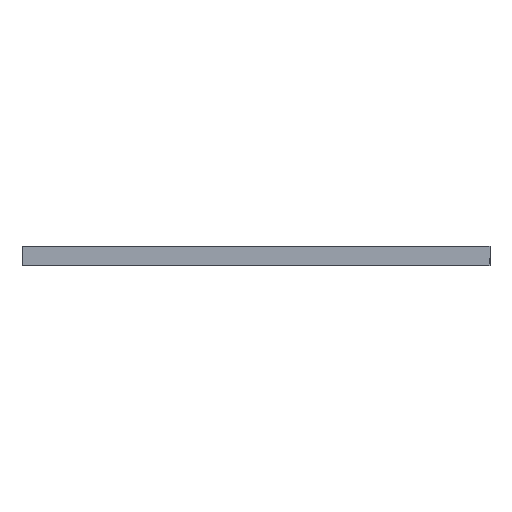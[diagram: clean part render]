
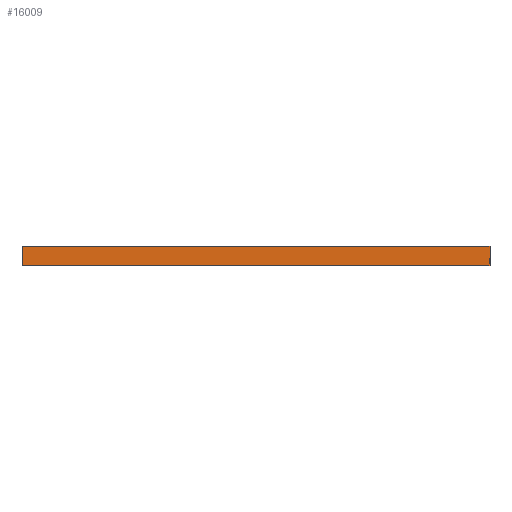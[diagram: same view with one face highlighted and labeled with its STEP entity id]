
A CAD part, front view. The second image highlights one B-rep face of the part: STEP entity #16009.
In plain terms, the highlighted planar face has unit normal (0, -1, 0).
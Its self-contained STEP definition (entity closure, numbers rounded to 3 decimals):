
#333 = VERTEX_POINT ( 'NONE', #25117 ) ;
#2737 = CARTESIAN_POINT ( 'NONE',  ( -12., 0., 0. ) ) ;
#3102 = VERTEX_POINT ( 'NONE', #32880 ) ;
#3257 = VECTOR ( 'NONE', #15110, 1000. ) ;
#3974 = VERTEX_POINT ( 'NONE', #2737 ) ;
#3991 = EDGE_CURVE ( 'NONE', #3974, #3102, #14623, .T. ) ;
#6361 = CARTESIAN_POINT ( 'NONE',  ( 0., 0., 0.5 ) ) ;
#6940 = DIRECTION ( 'NONE',  ( 0., 0., -1. ) ) ;
#9304 = DIRECTION ( 'NONE',  ( 1., 0., 0. ) ) ;
#9725 = VECTOR ( 'NONE', #9304, 1000. ) ;
#10083 = VECTOR ( 'NONE', #6940, 1000. ) ;
#10126 = VERTEX_POINT ( 'NONE', #15895 ) ;
#10584 = DIRECTION ( 'NONE',  ( -1., 0., 0. ) ) ;
#10820 = EDGE_CURVE ( 'NONE', #10126, #3102, #25149, .T. ) ;
#11920 = CARTESIAN_POINT ( 'NONE',  ( -12., 0., 0.5 ) ) ;
#11961 = CARTESIAN_POINT ( 'NONE',  ( -12., 0., 0. ) ) ;
#12451 = LINE ( 'NONE', #23955, #3257 ) ;
#12999 = ORIENTED_EDGE ( 'NONE', *, *, #19569, .F. ) ;
#13240 = FACE_OUTER_BOUND ( 'NONE', #30888, .T. ) ;
#13933 = AXIS2_PLACEMENT_3D ( 'NONE', #24052, #34869, #10584 ) ;
#14623 = LINE ( 'NONE', #11961, #9725 ) ;
#14752 = LINE ( 'NONE', #11920, #10083 ) ;
#15110 = DIRECTION ( 'NONE',  ( 1., 0., 0. ) ) ;
#15895 = CARTESIAN_POINT ( 'NONE',  ( 0., 0., 0.5 ) ) ;
#16009 = ADVANCED_FACE ( 'NONE', ( #13240 ), #32558, .F. ) ;
#17175 = DIRECTION ( 'NONE',  ( 0., 0., -1. ) ) ;
#18900 = ORIENTED_EDGE ( 'NONE', *, *, #10820, .F. ) ;
#19569 = EDGE_CURVE ( 'NONE', #333, #10126, #12451, .T. ) ;
#21113 = ORIENTED_EDGE ( 'NONE', *, *, #21370, .T. ) ;
#21370 = EDGE_CURVE ( 'NONE', #333, #3974, #14752, .T. ) ;
#23955 = CARTESIAN_POINT ( 'NONE',  ( -12., 0., 0.5 ) ) ;
#24052 = CARTESIAN_POINT ( 'NONE',  ( -12., 0., 0.5 ) ) ;
#25117 = CARTESIAN_POINT ( 'NONE',  ( -12., 0., 0.5 ) ) ;
#25149 = LINE ( 'NONE', #6361, #26384 ) ;
#26384 = VECTOR ( 'NONE', #17175, 1000. ) ;
#29962 = ORIENTED_EDGE ( 'NONE', *, *, #3991, .T. ) ;
#30888 = EDGE_LOOP ( 'NONE', ( #29962, #18900, #12999, #21113 ) ) ;
#32558 = PLANE ( 'NONE',  #13933 ) ;
#32880 = CARTESIAN_POINT ( 'NONE',  ( 0., 0., 0. ) ) ;
#34869 = DIRECTION ( 'NONE',  ( 0., 1., 0. ) ) ;
